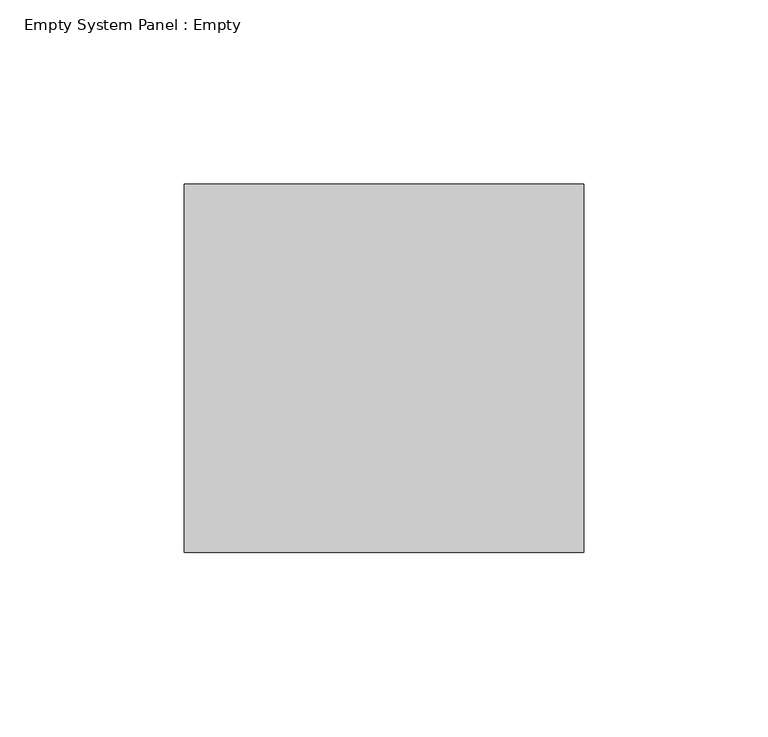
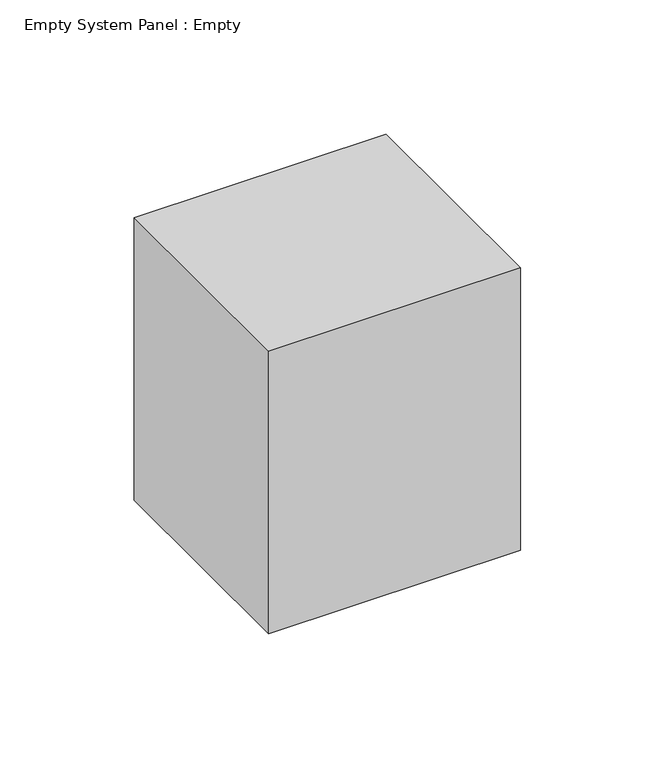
"""IFC4 building model written with IfcOpenShell, lengths in millimetres: plate geometry, Empty System Panel : Empty."""

from ifc_helpers import new_model, si_unit, origin, origin_with_axes, place, context, project, spatial, polyline, outline, extrude, source, transform, mapped, element, save


def empty_system_panel_empty_f8a2f29b(model_context):
    return source(origin(), model_context, "Body", "SweptSolid", [
        extrude(outline(polyline([(54.1878051, 50.0), (-54.1878051, 50.0), (-54.1878051, 150.0), (54.1878051, 150.0), (54.1878051, 50.0)])), origin_with_axes(), (0.0, 0.0, 1.0), 128.37561),
    ])


if __name__ == "__main__":
    model = new_model("IFC4")
    model_context = context("Model", 3, world=origin())
    ifc_project = project(units=[si_unit("LENGTHUNIT", "METRE", prefix="MILLI")], contexts=[model_context])
    site = spatial("IfcSite", under=ifc_project)
    building = spatial("IfcBuilding", under=site)
    placement = place(None, origin())
    empty_system_panel_empty_shape = empty_system_panel_empty_f8a2f29b(model_context)
    element("IfcPlate", 1, ObjectType="Empty System Panel : Empty", at=placement, inside=building, context=model_context, shape_type="MappedRepresentation", body=[
        mapped(empty_system_panel_empty_shape, transform((0.0, 0.0, 0.0), x_axis=(1.0, 0.0, 0.0), y_axis=(0.0, 1.0, 0.0), z_axis=(0.0, 0.0, 1.0))),
    ])
    save(model, "model.ifc")
